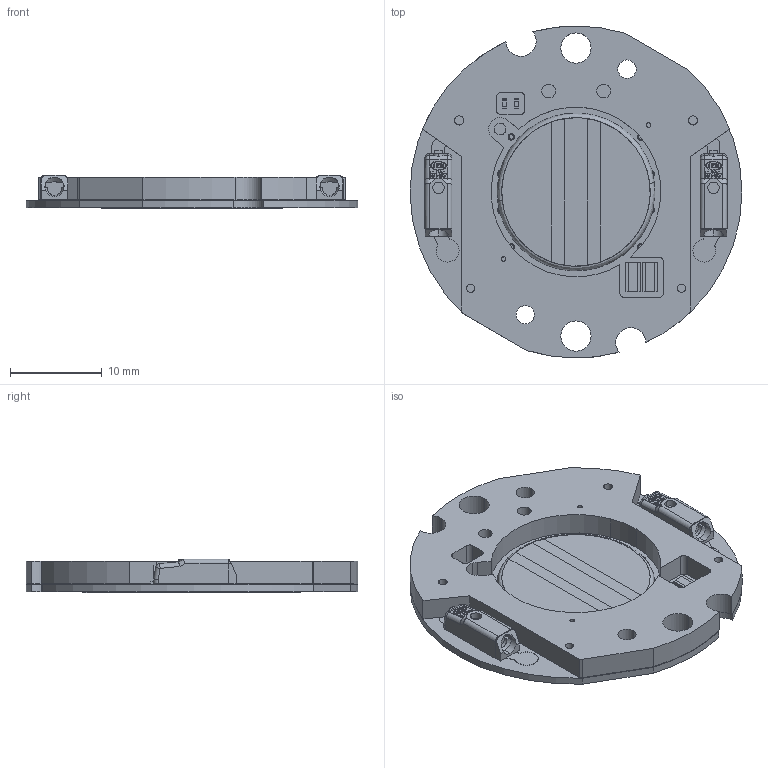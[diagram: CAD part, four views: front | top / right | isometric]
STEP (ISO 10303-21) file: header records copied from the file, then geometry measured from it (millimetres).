
FILE_DESCRIPTION (( 'STEP AP214' ), '1' );
FILE_NAME ('DW 15 Holder-CoB Assembly.STEP', '2020-06-22T21:12:15', ( '' ), ( '' ), 'SwSTEP 2.0', 'SolidWorks 2020', '' );
FILE_SCHEMA (( 'AUTOMOTIVE_DESIGN' ));
Length unit declared in the file: millimetre
Products named in the file (1): DW 15 Holder-CoB Assembly
Bounding box: 36.2 x 36.2 x 3.66 mm (x, y, z)
Volume: 2358.2 mm3; surface area: 4816.6 mm2
Topology: 2 solids, 2 shells, 836 faces, 2207 edges, 1445 vertices
Faces by surface type: plane 508, cylinder 288, bspline 34, sphere 4, cone 2
Entity records: 38979 total; most frequent: CARTESIAN_POINT 8835, ORIENTED_EDGE 4406, DIRECTION 4210, EDGE_CURVE 2203, VECTOR 1522, LINE 1522, VERTEX_POINT 1445, AXIS2_PLACEMENT_3D 1344
